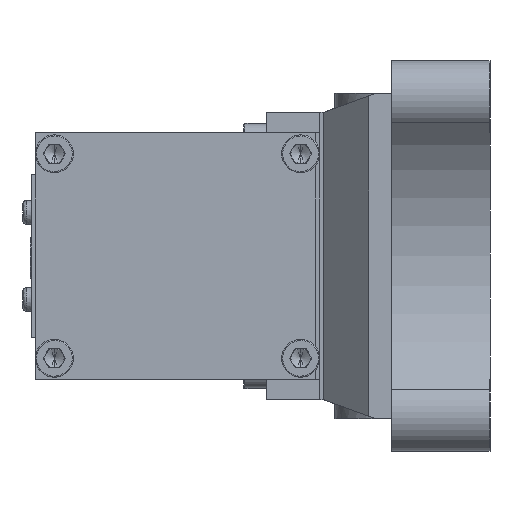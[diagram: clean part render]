
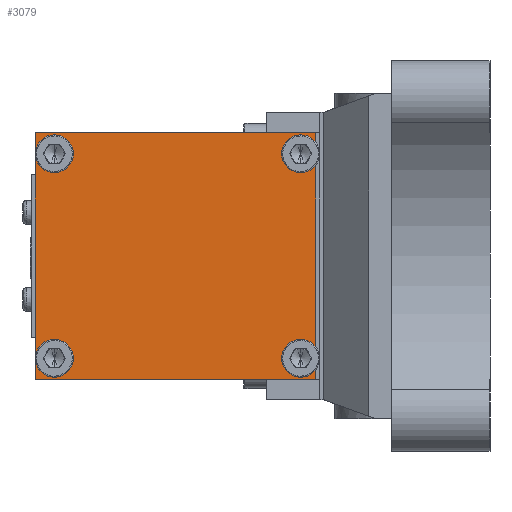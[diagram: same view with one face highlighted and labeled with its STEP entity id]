
A CAD part, left-side view. The second image highlights one B-rep face of the part: STEP entity #3079.
In plain terms, the highlighted planar face has unit normal (-1, 0, 0).
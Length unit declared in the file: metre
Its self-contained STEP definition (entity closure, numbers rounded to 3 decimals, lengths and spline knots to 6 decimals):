
#1123 = VERTEX_POINT ( 'NONE', #16823 ) ;
#1299 = DIRECTION ( 'NONE',  ( 0., 0., -1. ) ) ;
#1538 = CARTESIAN_POINT ( 'NONE',  ( 0.065, 0.071, -0.027 ) ) ;
#2281 = DIRECTION ( 'NONE',  ( -1., 0., 0. ) ) ;
#2327 = EDGE_CURVE ( 'NONE', #14612, #12323, #29202, .T. ) ;
#2383 = CIRCLE ( 'NONE', #10231, 0.003 ) ;
#2743 = DIRECTION ( 'NONE',  ( 1., 0., 0. ) ) ;
#2756 = CARTESIAN_POINT ( 'NONE',  ( 0.065, 0.071, 0.027 ) ) ;
#2778 = FACE_BOUND ( 'NONE', #19548, .T. ) ;
#3054 = CIRCLE ( 'NONE', #3367, 0.003 ) ;
#3079 = ADVANCED_FACE ( 'NONE', ( #3495, #20955, #8837, #2778, #26317 ), #11791, .F. ) ;
#3285 = CARTESIAN_POINT ( 'NONE',  ( 0.065, 0.006, -0.027 ) ) ;
#3367 = AXIS2_PLACEMENT_3D ( 'NONE', #2756, #18684, #5023 ) ;
#3387 = CARTESIAN_POINT ( 'NONE',  ( 0.065, 0.076, 0. ) ) ;
#3425 = CIRCLE ( 'NONE', #12924, 0.003 ) ;
#3495 = FACE_BOUND ( 'NONE', #22325, .T. ) ;
#3812 = DIRECTION ( 'NONE',  ( 0., 0., -1. ) ) ;
#3857 = ORIENTED_EDGE ( 'NONE', *, *, #16515, .F. ) ;
#4196 = EDGE_CURVE ( 'NONE', #1123, #28132, #2383, .T. ) ;
#4466 = EDGE_CURVE ( 'NONE', #28132, #1123, #21613, .T. ) ;
#5023 = DIRECTION ( 'NONE',  ( 0., 0., -1. ) ) ;
#5560 = DIRECTION ( 'NONE',  ( 0., 0., -1. ) ) ;
#5651 = DIRECTION ( 'NONE',  ( 0., 0., -1. ) ) ;
#5809 = AXIS2_PLACEMENT_3D ( 'NONE', #16353, #2743, #18670 ) ;
#6398 = EDGE_LOOP ( 'NONE', ( #14036, #19786 ) ) ;
#6572 = VERTEX_POINT ( 'NONE', #21272 ) ;
#6797 = CARTESIAN_POINT ( 'NONE',  ( 0.065, 0.006, 0.027 ) ) ;
#7168 = VERTEX_POINT ( 'NONE', #29129 ) ;
#7317 = DIRECTION ( 'NONE',  ( -1., 0., 0. ) ) ;
#7377 = VERTEX_POINT ( 'NONE', #7904 ) ;
#7885 = CIRCLE ( 'NONE', #11892, 0.003 ) ;
#7904 = CARTESIAN_POINT ( 'NONE',  ( 0.065, 0.006, -0.03 ) ) ;
#7915 = EDGE_CURVE ( 'NONE', #7168, #10236, #17235, .T. ) ;
#8660 = ORIENTED_EDGE ( 'NONE', *, *, #2327, .F. ) ;
#8713 = VECTOR ( 'NONE', #26206, 1. ) ;
#8742 = CARTESIAN_POINT ( 'NONE',  ( 0.065, 0.002, -0.0325 ) ) ;
#8837 = FACE_BOUND ( 'NONE', #22920, .T. ) ;
#8849 = VECTOR ( 'NONE', #15199, 1. ) ;
#9100 = DIRECTION ( 'NONE',  ( 0., 0., -1. ) ) ;
#9439 = VERTEX_POINT ( 'NONE', #25732 ) ;
#10231 = AXIS2_PLACEMENT_3D ( 'NONE', #1538, #17447, #3812 ) ;
#10236 = VERTEX_POINT ( 'NONE', #8742 ) ;
#11187 = VECTOR ( 'NONE', #5651, 1. ) ;
#11373 = CARTESIAN_POINT ( 'NONE',  ( 0.065, 0.039, 0.0325 ) ) ;
#11759 = CARTESIAN_POINT ( 'NONE',  ( 0.065, 0.071, -0.027 ) ) ;
#11791 = PLANE ( 'NONE',  #5809 ) ;
#11830 = EDGE_CURVE ( 'NONE', #6572, #19529, #7885, .T. ) ;
#11892 = AXIS2_PLACEMENT_3D ( 'NONE', #28590, #14903, #1299 ) ;
#11940 = CARTESIAN_POINT ( 'NONE',  ( 0.065, 0.071, 0.03 ) ) ;
#12168 = EDGE_CURVE ( 'NONE', #19940, #7168, #20318, .T. ) ;
#12323 = VERTEX_POINT ( 'NONE', #14230 ) ;
#12855 = EDGE_CURVE ( 'NONE', #19599, #7377, #16361, .T. ) ;
#12914 = CARTESIAN_POINT ( 'NONE',  ( 0.065, 0.039, -0.0325 ) ) ;
#12924 = AXIS2_PLACEMENT_3D ( 'NONE', #6797, #22758, #9100 ) ;
#13191 = CARTESIAN_POINT ( 'NONE',  ( 0.065, 0.076, 0.0325 ) ) ;
#13404 = ORIENTED_EDGE ( 'NONE', *, *, #23675, .F. ) ;
#14028 = DIRECTION ( 'NONE',  ( 0., 0., -1. ) ) ;
#14036 = ORIENTED_EDGE ( 'NONE', *, *, #4466, .F. ) ;
#14228 = ORIENTED_EDGE ( 'NONE', *, *, #12168, .F. ) ;
#14230 = CARTESIAN_POINT ( 'NONE',  ( 0.065, 0.006, 0.03 ) ) ;
#14343 = EDGE_CURVE ( 'NONE', #10236, #9439, #27031, .T. ) ;
#14612 = VERTEX_POINT ( 'NONE', #20478 ) ;
#14711 = CARTESIAN_POINT ( 'NONE',  ( 0.065, 0.002, 0. ) ) ;
#14903 = DIRECTION ( 'NONE',  ( -1., 0., 0. ) ) ;
#15199 = DIRECTION ( 'NONE',  ( 0., 1., 0. ) ) ;
#15898 = CARTESIAN_POINT ( 'NONE',  ( 0.065, 0.006, -0.027 ) ) ;
#16353 = CARTESIAN_POINT ( 'NONE',  ( 0.065, 0.002, 0.0325 ) ) ;
#16361 = CIRCLE ( 'NONE', #27000, 0.003 ) ;
#16515 = EDGE_CURVE ( 'NONE', #12323, #14612, #3425, .T. ) ;
#16823 = CARTESIAN_POINT ( 'NONE',  ( 0.065, 0.071, -0.024 ) ) ;
#17120 = ORIENTED_EDGE ( 'NONE', *, *, #22572, .F. ) ;
#17235 = LINE ( 'NONE', #14711, #11187 ) ;
#17447 = DIRECTION ( 'NONE',  ( -1., 0., 0. ) ) ;
#18205 = DIRECTION ( 'NONE',  ( 0., 0., -1. ) ) ;
#18670 = DIRECTION ( 'NONE',  ( 0., 0., -1. ) ) ;
#18684 = DIRECTION ( 'NONE',  ( -1., 0., 0. ) ) ;
#19206 = DIRECTION ( 'NONE',  ( -1., 0., 0. ) ) ;
#19529 = VERTEX_POINT ( 'NONE', #11940 ) ;
#19548 = EDGE_LOOP ( 'NONE', ( #23037, #24234 ) ) ;
#19599 = VERTEX_POINT ( 'NONE', #21297 ) ;
#19786 = ORIENTED_EDGE ( 'NONE', *, *, #4196, .F. ) ;
#19940 = VERTEX_POINT ( 'NONE', #13191 ) ;
#20318 = LINE ( 'NONE', #11373, #26407 ) ;
#20478 = CARTESIAN_POINT ( 'NONE',  ( 0.065, 0.006, 0.024 ) ) ;
#20828 = LINE ( 'NONE', #3387, #8713 ) ;
#20953 = CARTESIAN_POINT ( 'NONE',  ( 0.065, 0.006, 0.027 ) ) ;
#20955 = FACE_BOUND ( 'NONE', #6398, .T. ) ;
#21100 = ORIENTED_EDGE ( 'NONE', *, *, #11830, .F. ) ;
#21235 = ORIENTED_EDGE ( 'NONE', *, *, #14343, .F. ) ;
#21272 = CARTESIAN_POINT ( 'NONE',  ( 0.065, 0.071, 0.024 ) ) ;
#21297 = CARTESIAN_POINT ( 'NONE',  ( 0.065, 0.006, -0.024 ) ) ;
#21494 = CARTESIAN_POINT ( 'NONE',  ( 0.065, 0.071, -0.03 ) ) ;
#21613 = CIRCLE ( 'NONE', #27032, 0.003 ) ;
#21829 = AXIS2_PLACEMENT_3D ( 'NONE', #20953, #7317, #23250 ) ;
#22112 = ORIENTED_EDGE ( 'NONE', *, *, #7915, .F. ) ;
#22258 = CIRCLE ( 'NONE', #26104, 0.003 ) ;
#22325 = EDGE_LOOP ( 'NONE', ( #21100, #17120 ) ) ;
#22572 = EDGE_CURVE ( 'NONE', #19529, #6572, #3054, .T. ) ;
#22758 = DIRECTION ( 'NONE',  ( -1., 0., 0. ) ) ;
#22920 = EDGE_LOOP ( 'NONE', ( #8660, #3857 ) ) ;
#23037 = ORIENTED_EDGE ( 'NONE', *, *, #23625, .F. ) ;
#23250 = DIRECTION ( 'NONE',  ( 0., 0., -1. ) ) ;
#23625 = EDGE_CURVE ( 'NONE', #7377, #19599, #22258, .T. ) ;
#23675 = EDGE_CURVE ( 'NONE', #9439, #19940, #20828, .T. ) ;
#24234 = ORIENTED_EDGE ( 'NONE', *, *, #12855, .F. ) ;
#25732 = CARTESIAN_POINT ( 'NONE',  ( 0.065, 0.076, -0.0325 ) ) ;
#26104 = AXIS2_PLACEMENT_3D ( 'NONE', #3285, #19206, #5560 ) ;
#26206 = DIRECTION ( 'NONE',  ( 0., 0., 1. ) ) ;
#26317 = FACE_OUTER_BOUND ( 'NONE', #27047, .T. ) ;
#26407 = VECTOR ( 'NONE', #27321, 1. ) ;
#27000 = AXIS2_PLACEMENT_3D ( 'NONE', #15898, #2281, #18205 ) ;
#27031 = LINE ( 'NONE', #12914, #8849 ) ;
#27032 = AXIS2_PLACEMENT_3D ( 'NONE', #11759, #27722, #14028 ) ;
#27047 = EDGE_LOOP ( 'NONE', ( #22112, #14228, #13404, #21235 ) ) ;
#27321 = DIRECTION ( 'NONE',  ( 0., -1., 0. ) ) ;
#27722 = DIRECTION ( 'NONE',  ( -1., 0., 0. ) ) ;
#28132 = VERTEX_POINT ( 'NONE', #21494 ) ;
#28590 = CARTESIAN_POINT ( 'NONE',  ( 0.065, 0.071, 0.027 ) ) ;
#29129 = CARTESIAN_POINT ( 'NONE',  ( 0.065, 0.002, 0.0325 ) ) ;
#29202 = CIRCLE ( 'NONE', #21829, 0.003 ) ;
